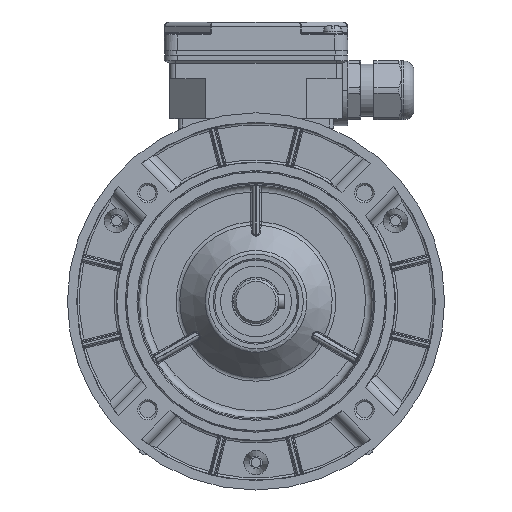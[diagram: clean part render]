
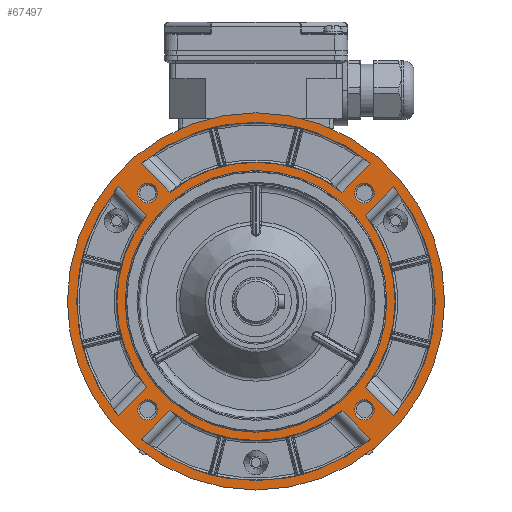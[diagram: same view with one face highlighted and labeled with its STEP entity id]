
A CAD part, left-side view. The second image highlights one B-rep face of the part: STEP entity #67497.
In plain terms, the highlighted planar face has unit normal (-1, 0, 0).
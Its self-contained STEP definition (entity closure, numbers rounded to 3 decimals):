
#3361=LINE('',#98782,#6679);
#3362=LINE('',#98787,#6680);
#3363=LINE('',#98793,#6681);
#3364=LINE('',#98797,#6682);
#3365=LINE('',#98798,#6683);
#3366=LINE('',#98803,#6684);
#3367=LINE('',#98806,#6685);
#3368=LINE('',#98811,#6686);
#6679=VECTOR('',#78102,1000.);
#6680=VECTOR('',#78105,1000.);
#6681=VECTOR('',#78110,1000.);
#6682=VECTOR('',#78113,1000.);
#6683=VECTOR('',#78114,1000.);
#6684=VECTOR('',#78117,1000.);
#6685=VECTOR('',#78120,1000.);
#6686=VECTOR('',#78123,1000.);
#9590=PLANE('',#70940);
#14892=ORIENTED_EDGE('',*,*,#27435,.T.);
#14893=ORIENTED_EDGE('',*,*,#27436,.T.);
#14894=ORIENTED_EDGE('',*,*,#27437,.T.);
#14895=ORIENTED_EDGE('',*,*,#27438,.T.);
#14896=ORIENTED_EDGE('',*,*,#27439,.T.);
#14897=ORIENTED_EDGE('',*,*,#27413,.T.);
#14898=ORIENTED_EDGE('',*,*,#27440,.T.);
#14899=ORIENTED_EDGE('',*,*,#27441,.T.);
#14900=ORIENTED_EDGE('',*,*,#27442,.F.);
#14901=ORIENTED_EDGE('',*,*,#27443,.F.);
#14902=ORIENTED_EDGE('',*,*,#27444,.T.);
#14903=ORIENTED_EDGE('',*,*,#27445,.F.);
#14904=ORIENTED_EDGE('',*,*,#27446,.F.);
#14905=ORIENTED_EDGE('',*,*,#27447,.T.);
#14906=ORIENTED_EDGE('',*,*,#27448,.T.);
#14907=ORIENTED_EDGE('',*,*,#27449,.T.);
#14908=ORIENTED_EDGE('',*,*,#27450,.F.);
#14909=ORIENTED_EDGE('',*,*,#27451,.F.);
#14910=ORIENTED_EDGE('',*,*,#27452,.T.);
#14911=ORIENTED_EDGE('',*,*,#27453,.T.);
#14912=ORIENTED_EDGE('',*,*,#27454,.F.);
#14913=ORIENTED_EDGE('',*,*,#27455,.F.);
#27413=EDGE_CURVE('',#34038,#34038,#38068,.T.);
#27435=EDGE_CURVE('',#34044,#34044,#38084,.F.);
#27436=EDGE_CURVE('',#34045,#34045,#38085,.F.);
#27437=EDGE_CURVE('',#34046,#34046,#38086,.F.);
#27438=EDGE_CURVE('',#34047,#34047,#38087,.F.);
#27439=EDGE_CURVE('',#34048,#34048,#38088,.F.);
#27440=EDGE_CURVE('',#34049,#34050,#3361,.T.);
#27441=EDGE_CURVE('',#34050,#34051,#38089,.T.);
#27442=EDGE_CURVE('',#34052,#34051,#3362,.T.);
#27443=EDGE_CURVE('',#34049,#34052,#38090,.T.);
#27444=EDGE_CURVE('',#34053,#34054,#38091,.T.);
#27445=EDGE_CURVE('',#34055,#34054,#3363,.T.);
#27446=EDGE_CURVE('',#34056,#34055,#38092,.T.);
#27447=EDGE_CURVE('',#34056,#34053,#3364,.T.);
#27448=EDGE_CURVE('',#34057,#34058,#3365,.T.);
#27449=EDGE_CURVE('',#34058,#34059,#38093,.T.);
#27450=EDGE_CURVE('',#34060,#34059,#3366,.T.);
#27451=EDGE_CURVE('',#34057,#34060,#38094,.T.);
#27452=EDGE_CURVE('',#34061,#34062,#3367,.T.);
#27453=EDGE_CURVE('',#34062,#34063,#38095,.T.);
#27454=EDGE_CURVE('',#34064,#34063,#3368,.T.);
#27455=EDGE_CURVE('',#34061,#34064,#38096,.T.);
#34038=VERTEX_POINT('',#98711);
#34044=VERTEX_POINT('',#98773);
#34045=VERTEX_POINT('',#98775);
#34046=VERTEX_POINT('',#98777);
#34047=VERTEX_POINT('',#98779);
#34048=VERTEX_POINT('',#98781);
#34049=VERTEX_POINT('',#98783);
#34050=VERTEX_POINT('',#98784);
#34051=VERTEX_POINT('',#98786);
#34052=VERTEX_POINT('',#98788);
#34053=VERTEX_POINT('',#98791);
#34054=VERTEX_POINT('',#98792);
#34055=VERTEX_POINT('',#98794);
#34056=VERTEX_POINT('',#98796);
#34057=VERTEX_POINT('',#98799);
#34058=VERTEX_POINT('',#98800);
#34059=VERTEX_POINT('',#98802);
#34060=VERTEX_POINT('',#98804);
#34061=VERTEX_POINT('',#98807);
#34062=VERTEX_POINT('',#98808);
#34063=VERTEX_POINT('',#98810);
#34064=VERTEX_POINT('',#98812);
#38068=CIRCLE('',#70903,80.);
#38084=CIRCLE('',#70941,55.5);
#38085=CIRCLE('',#70942,4.2);
#38086=CIRCLE('',#70943,4.2);
#38087=CIRCLE('',#70944,4.2);
#38088=CIRCLE('',#70945,4.2);
#38089=CIRCLE('',#70946,59.);
#38090=CIRCLE('',#70947,76.);
#38091=CIRCLE('',#70948,59.);
#38092=CIRCLE('',#70949,76.);
#38093=CIRCLE('',#70950,59.);
#38094=CIRCLE('',#70951,76.);
#38095=CIRCLE('',#70952,59.);
#38096=CIRCLE('',#70953,76.);
#40597=EDGE_LOOP('',(#14892));
#40598=EDGE_LOOP('',(#14893));
#40599=EDGE_LOOP('',(#14894));
#40600=EDGE_LOOP('',(#14895));
#40601=EDGE_LOOP('',(#14896));
#40602=EDGE_LOOP('',(#14897));
#40603=EDGE_LOOP('',(#14898,#14899,#14900,#14901));
#40604=EDGE_LOOP('',(#14902,#14903,#14904,#14905));
#40605=EDGE_LOOP('',(#14906,#14907,#14908,#14909));
#40606=EDGE_LOOP('',(#14910,#14911,#14912,#14913));
#43892=FACE_BOUND('',#40597,.T.);
#43893=FACE_BOUND('',#40598,.T.);
#43894=FACE_BOUND('',#40599,.T.);
#43895=FACE_BOUND('',#40600,.T.);
#43896=FACE_BOUND('',#40601,.T.);
#43897=FACE_BOUND('',#40602,.T.);
#43898=FACE_BOUND('',#40603,.T.);
#43899=FACE_BOUND('',#40604,.T.);
#43900=FACE_BOUND('',#40605,.T.);
#43901=FACE_BOUND('',#40606,.T.);
#67497=ADVANCED_FACE('',(#43892,#43893,#43894,#43895,#43896,#43897,#43898,
#43899,#43900,#43901),#9590,.T.);
#70903=AXIS2_PLACEMENT_3D('',#98710,#78012,#78013);
#70940=AXIS2_PLACEMENT_3D('',#98771,#78090,#78091);
#70941=AXIS2_PLACEMENT_3D('',#98772,#78092,#78093);
#70942=AXIS2_PLACEMENT_3D('',#98774,#78094,#78095);
#70943=AXIS2_PLACEMENT_3D('',#98776,#78096,#78097);
#70944=AXIS2_PLACEMENT_3D('',#98778,#78098,#78099);
#70945=AXIS2_PLACEMENT_3D('',#98780,#78100,#78101);
#70946=AXIS2_PLACEMENT_3D('',#98785,#78103,#78104);
#70947=AXIS2_PLACEMENT_3D('',#98789,#78106,#78107);
#70948=AXIS2_PLACEMENT_3D('',#98790,#78108,#78109);
#70949=AXIS2_PLACEMENT_3D('',#98795,#78111,#78112);
#70950=AXIS2_PLACEMENT_3D('',#98801,#78115,#78116);
#70951=AXIS2_PLACEMENT_3D('',#98805,#78118,#78119);
#70952=AXIS2_PLACEMENT_3D('',#98809,#78121,#78122);
#70953=AXIS2_PLACEMENT_3D('',#98813,#78124,#78125);
#78012=DIRECTION('',(-1.,0.,0.));
#78013=DIRECTION('',(0.,1.,0.));
#78090=DIRECTION('',(-1.,0.,0.));
#78091=DIRECTION('',(0.,-1.,0.));
#78092=DIRECTION('',(-1.,0.,0.));
#78093=DIRECTION('',(0.,-1.,0.));
#78094=DIRECTION('',(-1.,0.,0.));
#78095=DIRECTION('',(0.,-1.,0.));
#78096=DIRECTION('',(-1.,0.,0.));
#78097=DIRECTION('',(0.,-1.,0.));
#78098=DIRECTION('',(-1.,0.,0.));
#78099=DIRECTION('',(0.,-1.,0.));
#78100=DIRECTION('',(-1.,0.,0.));
#78101=DIRECTION('',(0.,-1.,0.));
#78102=DIRECTION('',(0.,0.707,0.707));
#78103=DIRECTION('',(-1.,0.,0.));
#78104=DIRECTION('',(0.,0.,1.));
#78105=DIRECTION('',(0.,0.707,-0.707));
#78106=DIRECTION('',(-1.,0.,0.));
#78107=DIRECTION('',(0.,0.,1.));
#78108=DIRECTION('',(-1.,0.,0.));
#78109=DIRECTION('',(0.,0.,1.));
#78110=DIRECTION('',(0.,0.707,0.707));
#78111=DIRECTION('',(-1.,0.,0.));
#78112=DIRECTION('',(0.,0.,1.));
#78113=DIRECTION('',(0.,-0.707,0.707));
#78114=DIRECTION('',(0.,0.707,-0.707));
#78115=DIRECTION('',(-1.,0.,0.));
#78116=DIRECTION('',(0.,0.,1.));
#78117=DIRECTION('',(0.,-0.707,-0.707));
#78118=DIRECTION('',(-1.,0.,0.));
#78119=DIRECTION('',(0.,0.,1.));
#78120=DIRECTION('',(0.,-0.707,-0.707));
#78121=DIRECTION('',(-1.,0.,0.));
#78122=DIRECTION('',(0.,0.,1.));
#78123=DIRECTION('',(0.,-0.707,0.707));
#78124=DIRECTION('',(-1.,0.,0.));
#78125=DIRECTION('',(0.,0.,1.));
#98710=CARTESIAN_POINT('',(-44.8,0.,0.));
#98711=CARTESIAN_POINT('',(-44.8,80.,0.));
#98771=CARTESIAN_POINT('',(-44.8,0.,0.));
#98772=CARTESIAN_POINT('',(-44.8,0.,0.));
#98773=CARTESIAN_POINT('',(-44.8,-55.5,0.));
#98774=CARTESIAN_POINT('',(-44.8,-45.962,-45.962));
#98775=CARTESIAN_POINT('',(-44.8,-50.162,-45.962));
#98776=CARTESIAN_POINT('',(-44.8,-45.962,45.962));
#98777=CARTESIAN_POINT('',(-44.8,-50.162,45.962));
#98778=CARTESIAN_POINT('',(-44.8,45.962,45.962));
#98779=CARTESIAN_POINT('',(-44.8,41.762,45.962));
#98780=CARTESIAN_POINT('',(-44.8,45.962,-45.962));
#98781=CARTESIAN_POINT('',(-44.8,41.762,-45.962));
#98782=CARTESIAN_POINT('',(-44.8,-70.057,-60.157));
#98783=CARTESIAN_POINT('',(-44.8,-58.461,-48.562));
#98784=CARTESIAN_POINT('',(-44.8,-46.374,-36.475));
#98785=CARTESIAN_POINT('',(-44.8,0.,0.));
#98786=CARTESIAN_POINT('',(-44.8,-46.374,36.475));
#98787=CARTESIAN_POINT('',(-44.8,-70.057,60.157));
#98788=CARTESIAN_POINT('',(-44.8,-58.461,48.562));
#98789=CARTESIAN_POINT('',(-44.8,0.,0.));
#98790=CARTESIAN_POINT('',(-44.8,0.,0.));
#98791=CARTESIAN_POINT('',(-44.8,36.475,-46.374));
#98792=CARTESIAN_POINT('',(-44.8,-36.475,-46.374));
#98793=CARTESIAN_POINT('',(-44.8,-60.157,-70.057));
#98794=CARTESIAN_POINT('',(-44.8,-48.562,-58.461));
#98795=CARTESIAN_POINT('',(-44.8,0.,0.));
#98796=CARTESIAN_POINT('',(-44.8,48.562,-58.461));
#98797=CARTESIAN_POINT('',(-44.8,60.157,-70.057));
#98798=CARTESIAN_POINT('',(-44.8,-60.157,70.057));
#98799=CARTESIAN_POINT('',(-44.8,-48.562,58.461));
#98800=CARTESIAN_POINT('',(-44.8,-36.475,46.374));
#98801=CARTESIAN_POINT('',(-44.8,0.,0.));
#98802=CARTESIAN_POINT('',(-44.8,36.475,46.374));
#98803=CARTESIAN_POINT('',(-44.8,60.157,70.057));
#98804=CARTESIAN_POINT('',(-44.8,48.562,58.461));
#98805=CARTESIAN_POINT('',(-44.8,0.,0.));
#98806=CARTESIAN_POINT('',(-44.8,70.057,60.157));
#98807=CARTESIAN_POINT('',(-44.8,58.461,48.562));
#98808=CARTESIAN_POINT('',(-44.8,46.374,36.475));
#98809=CARTESIAN_POINT('',(-44.8,0.,0.));
#98810=CARTESIAN_POINT('',(-44.8,46.374,-36.475));
#98811=CARTESIAN_POINT('',(-44.8,70.057,-60.157));
#98812=CARTESIAN_POINT('',(-44.8,58.461,-48.562));
#98813=CARTESIAN_POINT('',(-44.8,0.,0.));
